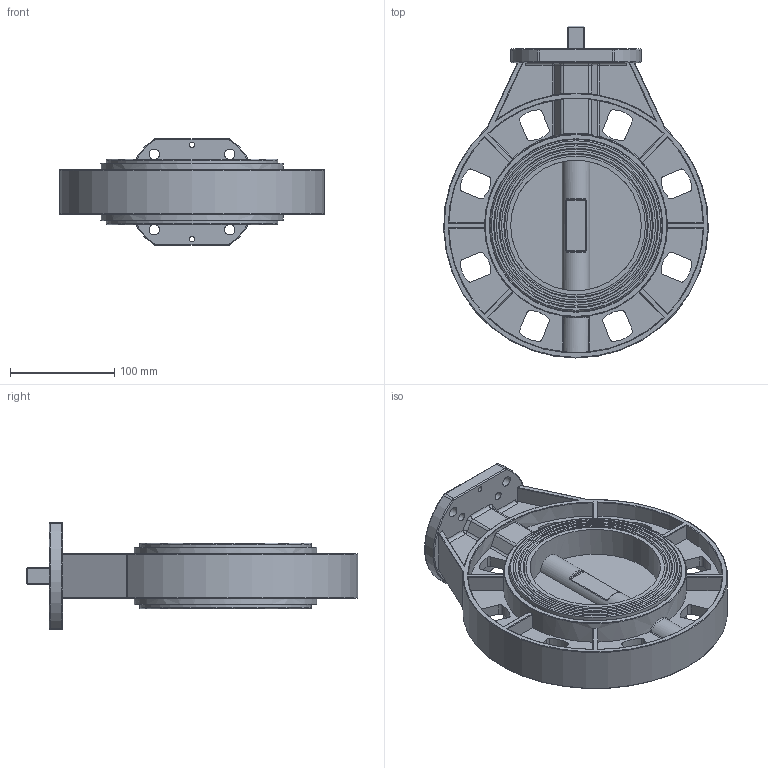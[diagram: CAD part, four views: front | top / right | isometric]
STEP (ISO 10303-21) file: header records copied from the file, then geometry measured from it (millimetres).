
FILE_DESCRIPTION(('STEP AP242'), '1');
FILE_NAME('WBV4242E-2W-Fb-ISO 青蜮铕 滂耜钼 DN.ru 捏125 畜10', '', ('UNSPECIFIED'), ('UNSPECIFIED'), 'C3D Converter', 'C3D Toolkit', '');
FILE_SCHEMA(('AP242_MANAGED_MODEL_BASED_3D_ENGINEERING_MIM_LF { 1 0 10303 442 1 1 4 }'));
Length unit declared in the file: millimetre
Products named in the file (1): WBV4242E-2W-Fb-ISO
Bounding box: 253.41 x 317.75 x 102 mm (x, y, z)
Volume: 1485973.2 mm3; surface area: 324450.4 mm2
Topology: 1 solids, 3 shells, 456 faces, 1156 edges, 730 vertices
Faces by surface type: cylinder 177, plane 151, torus 75, cone 25, bspline 22, sphere 6
Full cylindrical faces by diameter (mm): 3.132 x2, 3.5 x2, 4 x2, 5 x4, 8 x4, 10 x4, 27 x2, 49.6 x1, 50 x1, 125 x2, 164.2 x1, 165 x1, 175 x2
Entity records: 28439 total; most frequent: CARTESIAN_POINT 14016, ORIENTED_EDGE 2192, DIRECTION 2186, EDGE_CURVE 1096, AXIS2_PLACEMENT_3D 886, VERTEX_POINT 728, EDGE_LOOP 578, FACE_BOUND 496
